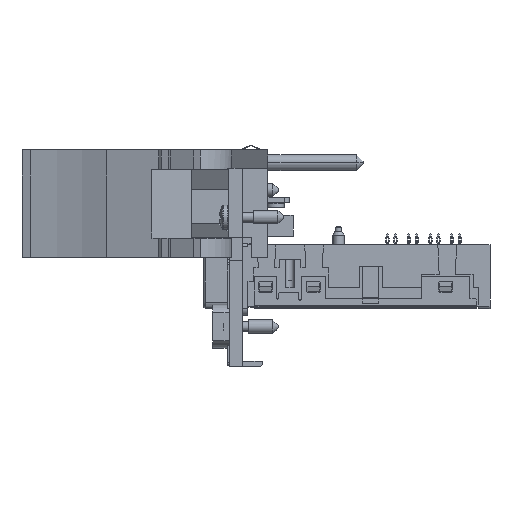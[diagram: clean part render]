
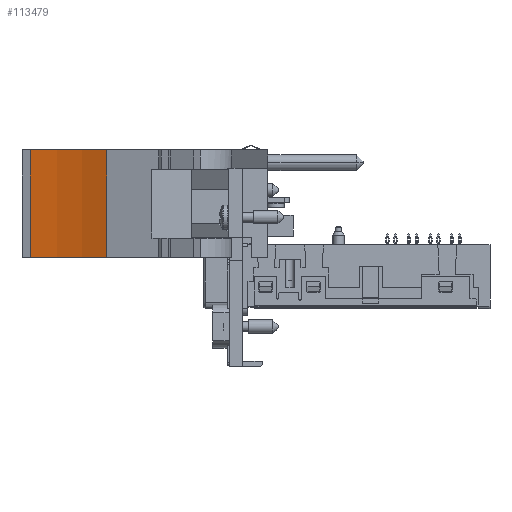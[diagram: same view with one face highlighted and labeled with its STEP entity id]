
A CAD part, front view. The second image highlights one B-rep face of the part: STEP entity #113479.
In plain terms, the highlighted cylindrical face has radius 51.46 mm (diameter 102.919 mm), a partial arc.
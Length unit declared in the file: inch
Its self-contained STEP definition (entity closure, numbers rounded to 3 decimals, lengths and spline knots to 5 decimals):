
#27382=CARTESIAN_POINT('',(-2.11488,-2.23233,0.633));
#27383=DIRECTION('',(0.,0.,-1.));
#27384=DIRECTION('',(0.16,0.987,0.));
#27385=AXIS2_PLACEMENT_3D('',#27382,#27383,#27384);
#27851=CARTESIAN_POINT('',(-2.11488,-2.23233,-0.155));
#27852=DIRECTION('',(0.,0.,1.));
#27853=DIRECTION('',(0.435,0.9,0.));
#27854=AXIS2_PLACEMENT_3D('',#27851,#27852,#27853);
#28087=DIRECTION('',(0.,0.,1.));
#28088=VECTOR('',#28087,0.788);
#28089=CARTESIAN_POINT('',(-1.23358,-0.4081,-0.155));
#28090=LINE('',#28089,#28088);
#28091=DIRECTION('',(0.,0.,-1.));
#28092=VECTOR('',#28091,0.788);
#28093=CARTESIAN_POINT('',(-1.79155,-0.23233,0.633));
#28094=LINE('',#28093,#28092);
#77277=CARTESIAN_POINT('',(-1.79155,-0.23233,-0.155));
#77279=VERTEX_POINT('',#77277);
#77281=CARTESIAN_POINT('',(-1.79155,-0.23233,0.633));
#77282=VERTEX_POINT('',#77281);
#77351=CARTESIAN_POINT('',(-1.23358,-0.4081,0.633));
#77352=VERTEX_POINT('',#77351);
#77353=CARTESIAN_POINT('',(-1.23358,-0.4081,-0.155));
#77354=VERTEX_POINT('',#77353);
#113468=CARTESIAN_POINT('',(-2.11488,-2.23233,-0.155));
#113469=DIRECTION('',(0.,0.,1.));
#113470=DIRECTION('',(0.,1.,0.));
#113471=AXIS2_PLACEMENT_3D('',#113468,#113469,#113470);
#113472=CYLINDRICAL_SURFACE('',#113471,2.02597);
#113473=ORIENTED_EDGE('',*,*,#112567,.T.);
#113474=ORIENTED_EDGE('',*,*,#112982,.F.);
#113475=ORIENTED_EDGE('',*,*,#113117,.T.);
#113476=ORIENTED_EDGE('',*,*,#113463,.F.);
#113477=EDGE_LOOP('',(#113473,#113474,#113475,#113476));
#113478=FACE_OUTER_BOUND('',#113477,.F.);
#113479=ADVANCED_FACE('',(#113478),#113472,.F.);
#27386=CIRCLE('',#27385,2.02597);
#27855=CIRCLE('',#27854,2.02597);
#112567=EDGE_CURVE('',#77282,#77352,#27386,.T.);
#112982=EDGE_CURVE('',#77354,#77352,#28090,.T.);
#113117=EDGE_CURVE('',#77354,#77279,#27855,.T.);
#113463=EDGE_CURVE('',#77282,#77279,#28094,.T.);
